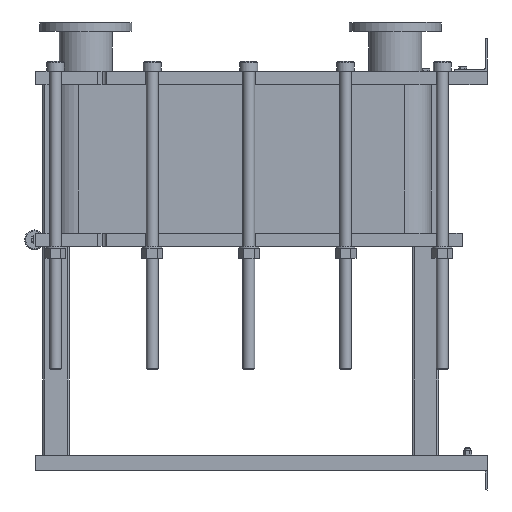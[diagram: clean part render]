
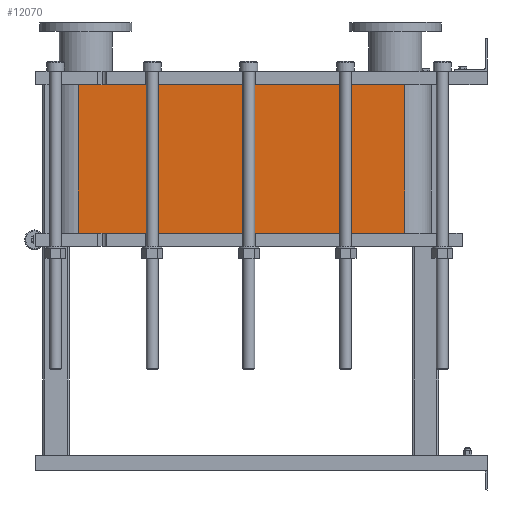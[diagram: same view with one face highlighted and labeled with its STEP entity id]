
A CAD part, left-side view. The second image highlights one B-rep face of the part: STEP entity #12070.
In plain terms, the highlighted planar face has unit normal (-1, 0, 0).
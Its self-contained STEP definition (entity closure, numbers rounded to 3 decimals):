
#1064=LINE('',#21140,#2164);
#1065=LINE('',#21144,#2165);
#1066=LINE('',#21146,#2166);
#1067=LINE('',#21147,#2167);
#2164=VECTOR('',#15790,10.);
#2165=VECTOR('',#15795,10.);
#2166=VECTOR('',#15796,10.);
#2167=VECTOR('',#15797,10.);
#3304=FACE_OUTER_BOUND('',#4091,.T.);
#4091=EDGE_LOOP('',(#9793,#9794,#9795,#9796));
#5677=VERTEX_POINT('',#21137);
#5678=VERTEX_POINT('',#21139);
#5679=VERTEX_POINT('',#21143);
#5680=VERTEX_POINT('',#21145);
#7118=EDGE_CURVE('',#5678,#5677,#1064,.T.);
#7120=EDGE_CURVE('',#5677,#5679,#1065,.T.);
#7121=EDGE_CURVE('',#5680,#5679,#1066,.T.);
#7122=EDGE_CURVE('',#5680,#5678,#1067,.T.);
#9793=ORIENTED_EDGE('',*,*,#7120,.T.);
#9794=ORIENTED_EDGE('',*,*,#7121,.F.);
#9795=ORIENTED_EDGE('',*,*,#7122,.T.);
#9796=ORIENTED_EDGE('',*,*,#7118,.T.);
#11441=PLANE('',#13191);
#12070=ADVANCED_FACE('',(#3304),#11441,.T.);
#13191=AXIS2_PLACEMENT_3D('',#21142,#15793,#15794);
#15790=DIRECTION('',(0.,0.,-1.));
#15793=DIRECTION('center_axis',(-1.,0.,0.));
#15794=DIRECTION('ref_axis',(0.,1.,0.));
#15795=DIRECTION('',(0.,-1.,0.));
#15796=DIRECTION('',(0.,0.,-1.));
#15797=DIRECTION('',(0.,1.,0.));
#21137=CARTESIAN_POINT('',(-248.152,1243.818,-451.95));
#21139=CARTESIAN_POINT('',(-248.152,1243.818,0.));
#21140=CARTESIAN_POINT('',(-248.152,1243.818,0.));
#21142=CARTESIAN_POINT('Origin',(-248.152,251.818,0.));
#21143=CARTESIAN_POINT('',(-248.152,251.818,-451.95));
#21144=CARTESIAN_POINT('',(-248.152,499.818,-451.95));
#21145=CARTESIAN_POINT('',(-248.152,251.818,0.));
#21146=CARTESIAN_POINT('',(-248.152,251.818,0.));
#21147=CARTESIAN_POINT('',(-248.152,251.818,0.));
